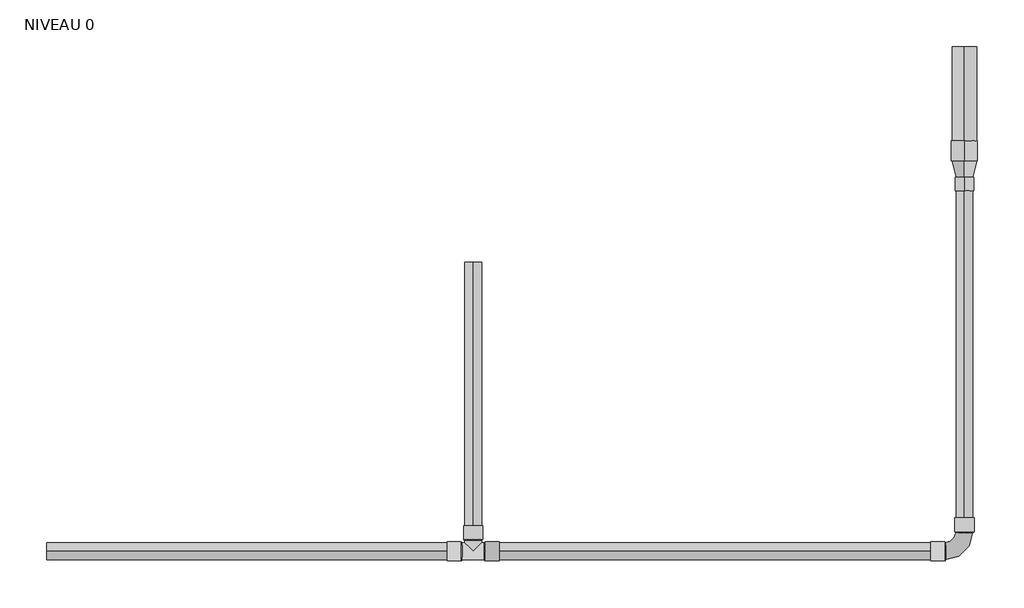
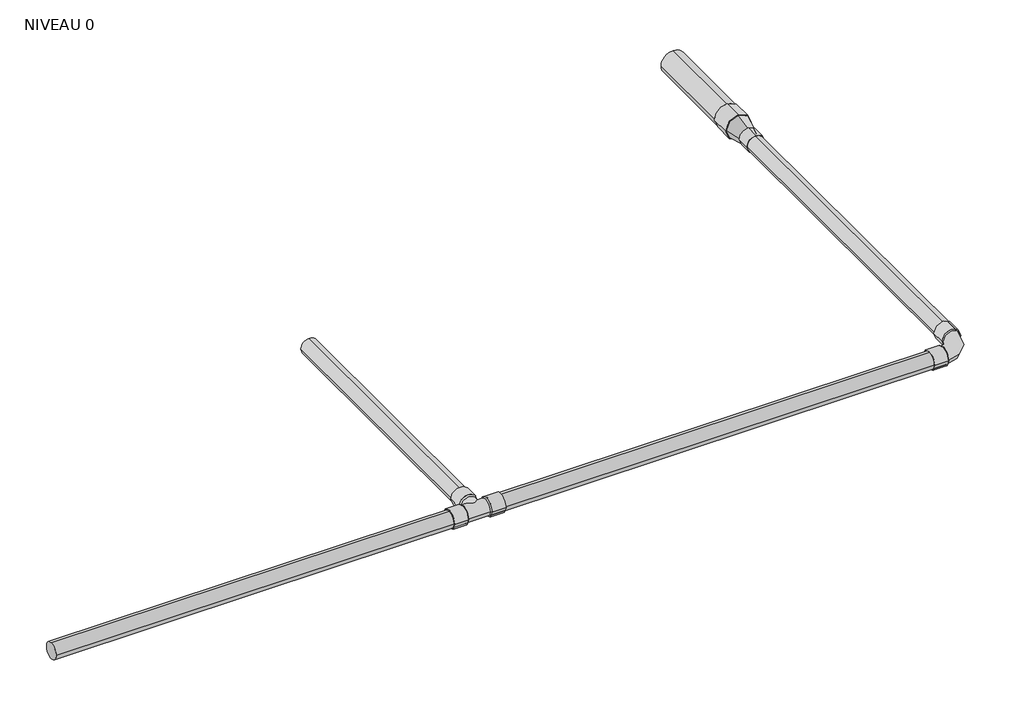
# One storey: 5 pipe segments, 3 pipe fittings.
"""IFC4 building model written with IfcOpenShell, lengths in millimetres."""

from ifc_helpers import new_model, si_unit, point, frame, frame_2d, origin, place, context, project, spatial, circle_curve, trimmed, segment, composite_curve, outline, extrude, transform, mapped, element, save
from components import coude_cuivre_ff_7fc61ebf, reduction_cuivre_standard_1e4311dc, te_cuivre_ff_bd89a1cf

model = new_model("IFC4")

# Units and contexts
model_context = context("Model", 3, world=origin())
ifc_project = project(units=[si_unit("LENGTHUNIT", "METRE", prefix="MILLI")], contexts=[model_context])

# Site, building, storey
site = spatial("IfcSite", under=ifc_project)
building = spatial("IfcBuilding", under=site)
storey = spatial("IfcBuildingStorey", under=building, Name="NIVEAU 0", Elevation=0.0)

# Pipe fittings
placement = place(None, origin())
coude_cuivre_ff_shape = coude_cuivre_ff_7fc61ebf(model_context)
element("IfcPipeFitting", 1, ObjectType="COUDE CUIVRE FF : DIAMETRE EXTERNE", at=placement, inside=storey, context=model_context, shape_type="MappedRepresentation", body=[
    mapped(coude_cuivre_ff_shape, transform((-1608.8250016, -2875.9465922, 128.0), x_axis=(1.0, 0.0, 0.0), y_axis=(0.0, 1.0, 0.0), z_axis=(0.0, 0.0, 1.0))),
])
reduction_cuivre_standard_shape = reduction_cuivre_standard_1e4311dc(model_context)
element("IfcPipeFitting", 2, ObjectType="REDUCTION CUIVRE : Standard", at=placement, inside=storey, context=model_context, shape_type="MappedRepresentation", body=[
    mapped(reduction_cuivre_standard_shape, transform((-1608.8250016, -2375.9465922, 128.0), x_axis=(0.0, 1.0, 0.0), y_axis=(-1.0, 0.0, 0.0), z_axis=(0.0, 0.0, 1.0))),
])
te_cuivre_ff_shape = te_cuivre_ff_bd89a1cf(model_context)
element("IfcPipeFitting", 3, ObjectType="TE CUIVRE FF : diamètre exterieur", at=placement, inside=storey, context=model_context, shape_type="MappedRepresentation", body=[
    mapped(te_cuivre_ff_shape, transform((-2251.0287339, -2875.9465922, 128.0), x_axis=(-1.0, 0.0, 0.0), y_axis=(0.0, 1.0, 0.0), z_axis=(0.0, 0.0, -1.0))),
])

# Pipe segments
element("IfcPipeSegment", 4, ObjectType="CUIVRE ECROUI", at=placement, inside=storey, context=model_context, shape_type="SweptSolid", body=[
    extrude(outline(composite_curve([segment(trimmed(circle_curve(frame_2d((-2875.9465922, 128.0)), 11.0), [point((-2886.9465922, 128.0))], [point((-2875.9465922, 139.0))], False, "CARTESIAN"), True, "CONTINUOUS"), segment(trimmed(circle_curve(frame_2d((-2875.9465922, 128.0)), 11.0), [point((-2875.9465922, 139.0))], [point((-2864.9465922, 128.0))], False, "CARTESIAN"), True, "CONTINUOUS"), segment(trimmed(circle_curve(frame_2d((-2875.9465922, 128.0)), 11.0), [point((-2864.9465922, 128.0))], [point((-2875.9465922, 117.0))], False, "CARTESIAN"), True, "CONTINUOUS"), segment(trimmed(circle_curve(frame_2d((-2875.9465922, 128.0)), 11.0), [point((-2875.9465922, 117.0))], [point((-2886.9465922, 128.0))], False, "CARTESIAN"), True, "CONTINUOUS")], self_intersect=False)), frame((-2235.0287339, 0.0, 0.0), z_axis=(1.0, 0.0, 0.0), x_axis=(0.0, 1.0, 0.0)), (0.0, 0.0, 1.0), 600.2037323),
])
element("IfcPipeSegment", 5, ObjectType="CUIVRE ECROUI", at=placement, inside=storey, context=model_context, shape_type="SweptSolid", body=[
    extrude(outline(composite_curve([segment(trimmed(circle_curve(frame_2d((128.0, -1608.8250016)), 11.0), [point((128.0, -1597.8250016))], [point((139.0, -1608.8250016))], False, "CARTESIAN"), True, "CONTINUOUS"), segment(trimmed(circle_curve(frame_2d((128.0, -1608.8250016)), 11.0), [point((139.0, -1608.8250016))], [point((128.0, -1619.8250016))], False, "CARTESIAN"), True, "CONTINUOUS"), segment(trimmed(circle_curve(frame_2d((128.0, -1608.8250016)), 11.0), [point((128.0, -1619.8250016))], [point((117.0, -1608.8250016))], False, "CARTESIAN"), True, "CONTINUOUS"), segment(trimmed(circle_curve(frame_2d((128.0, -1608.8250016)), 11.0), [point((117.0, -1608.8250016))], [point((128.0, -1597.8250016))], False, "CARTESIAN"), True, "CONTINUOUS")], self_intersect=False)), frame((0.0, -2849.9465922, 0.0), z_axis=(0.0, 1.0, 0.0), x_axis=(0.0, 0.0, 1.0)), (0.0, 0.0, 1.0), 445.4),
])
element("IfcPipeSegment", 6, ObjectType="CUIVRE ECROUI", at=placement, inside=storey, context=model_context, shape_type="SweptSolid", body=[
    extrude(outline(composite_curve([segment(trimmed(circle_curve(frame_2d((128.0, -2251.0287339)), 11.0), [point((128.0, -2240.0287339))], [point((139.0, -2251.0287339))], False, "CARTESIAN"), True, "CONTINUOUS"), segment(trimmed(circle_curve(frame_2d((128.0, -2251.0287339)), 11.0), [point((139.0, -2251.0287339))], [point((128.0, -2262.0287339))], False, "CARTESIAN"), True, "CONTINUOUS"), segment(trimmed(circle_curve(frame_2d((128.0, -2251.0287339)), 11.0), [point((128.0, -2262.0287339))], [point((117.0, -2251.0287339))], False, "CARTESIAN"), True, "CONTINUOUS"), segment(trimmed(circle_curve(frame_2d((128.0, -2251.0287339)), 11.0), [point((117.0, -2251.0287339))], [point((128.0, -2240.0287339))], False, "CARTESIAN"), True, "CONTINUOUS")], self_intersect=False)), frame((0.0, -2859.9465922, 0.0), z_axis=(0.0, 1.0, 0.0), x_axis=(0.0, 0.0, 1.0)), (0.0, 0.0, 1.0), 361.8619878),
])
element("IfcPipeSegment", 7, ObjectType="CUIVRE ECROUI", at=placement, inside=storey, context=model_context, shape_type="SweptSolid", body=[
    extrude(outline(composite_curve([segment(trimmed(circle_curve(frame_2d((-2875.9465922, 128.0)), 11.0), [point((-2886.9465922, 128.0))], [point((-2875.9465922, 139.0))], False, "CARTESIAN"), True, "CONTINUOUS"), segment(trimmed(circle_curve(frame_2d((-2875.9465922, 128.0)), 11.0), [point((-2875.9465922, 139.0))], [point((-2864.9465922, 128.0))], False, "CARTESIAN"), True, "CONTINUOUS"), segment(trimmed(circle_curve(frame_2d((-2875.9465922, 128.0)), 11.0), [point((-2864.9465922, 128.0))], [point((-2875.9465922, 117.0))], False, "CARTESIAN"), True, "CONTINUOUS"), segment(trimmed(circle_curve(frame_2d((-2875.9465922, 128.0)), 11.0), [point((-2875.9465922, 117.0))], [point((-2886.9465922, 128.0))], False, "CARTESIAN"), True, "CONTINUOUS")], self_intersect=False)), frame((-2808.8250016, 0.0, 0.0), z_axis=(1.0, 0.0, 0.0), x_axis=(0.0, 1.0, 0.0)), (0.0, 0.0, 1.0), 541.7962677),
])
element("IfcPipeSegment", 8, ObjectType="CUIVRE ECROUI", at=placement, inside=storey, context=model_context, shape_type="SweptSolid", body=[
    extrude(outline(composite_curve([segment(trimmed(circle_curve(frame_2d((128.0, -1608.8250016)), 16.0), [point((128.0, -1592.8250016))], [point((144.0, -1608.8250016))], False, "CARTESIAN"), True, "CONTINUOUS"), segment(trimmed(circle_curve(frame_2d((128.0, -1608.8250016)), 16.0), [point((144.0, -1608.8250016))], [point((128.0, -1624.8250016))], False, "CARTESIAN"), True, "CONTINUOUS"), segment(trimmed(circle_curve(frame_2d((128.0, -1608.8250016)), 16.0), [point((128.0, -1624.8250016))], [point((112.0, -1608.8250016))], False, "CARTESIAN"), True, "CONTINUOUS"), segment(trimmed(circle_curve(frame_2d((128.0, -1608.8250016)), 16.0), [point((112.0, -1608.8250016))], [point((128.0, -1592.8250016))], False, "CARTESIAN"), True, "CONTINUOUS")], self_intersect=False)), frame((0.0, -2339.3465922, 0.0), z_axis=(0.0, 1.0, 0.0), x_axis=(0.0, 0.0, 1.0)), (0.0, 0.0, 1.0), 123.4),
])

save(model, "model.ifc")
